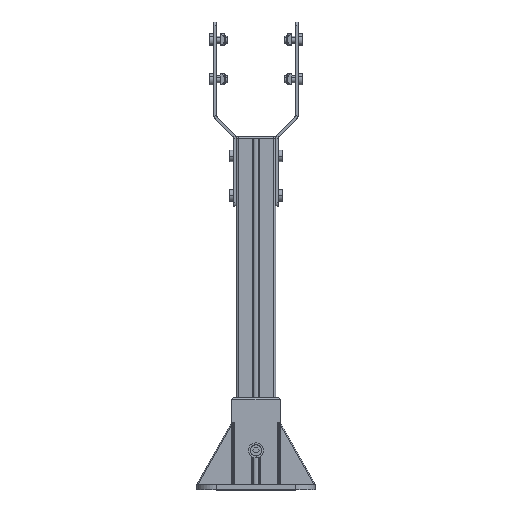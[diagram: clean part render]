
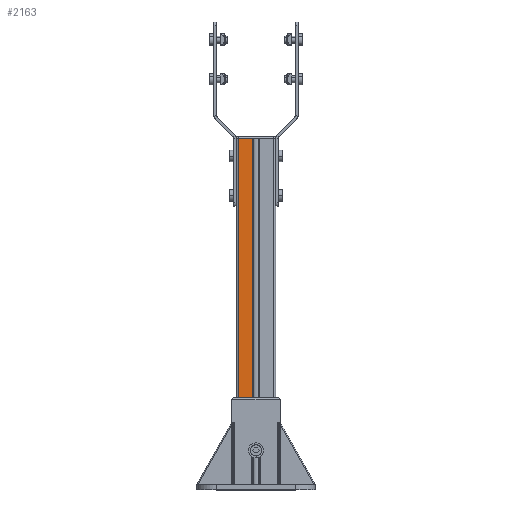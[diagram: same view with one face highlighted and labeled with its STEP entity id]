
A CAD part, top view. The second image highlights one B-rep face of the part: STEP entity #2163.
In plain terms, the highlighted planar face has unit normal (0, 0, 1).
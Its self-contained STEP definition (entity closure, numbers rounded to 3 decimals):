
#153 = EDGE_LOOP ( 'NONE', ( #6823, #3425, #8064, #6465 ) ) ;
#171 = VERTEX_POINT ( 'NONE', #10446 ) ;
#488 = LINE ( 'NONE', #8338, #710 ) ;
#710 = VECTOR ( 'NONE', #3123, 1000. ) ;
#715 = DIRECTION ( 'NONE',  ( 1., 0., 0. ) ) ;
#1403 = VERTEX_POINT ( 'NONE', #16484 ) ;
#2163 = ADVANCED_FACE ( 'NONE', ( #9045 ), #5379, .F. ) ;
#2606 = CARTESIAN_POINT ( 'NONE',  ( -400., 4.15, 22.5 ) ) ;
#2920 = CARTESIAN_POINT ( 'NONE',  ( 0., 20., 22.5 ) ) ;
#3123 = DIRECTION ( 'NONE',  ( 0., 1., 0. ) ) ;
#3425 = ORIENTED_EDGE ( 'NONE', *, *, #3549, .F. ) ;
#3549 = EDGE_CURVE ( 'NONE', #1403, #4043, #9013, .T. ) ;
#4043 = VERTEX_POINT ( 'NONE', #2920 ) ;
#4126 = VECTOR ( 'NONE', #17094, 1000. ) ;
#4282 = AXIS2_PLACEMENT_3D ( 'NONE', #11042, #11344, #7264 ) ;
#4383 = EDGE_CURVE ( 'NONE', #12776, #171, #13140, .T. ) ;
#4829 = VECTOR ( 'NONE', #715, 1000. ) ;
#5379 = PLANE ( 'NONE',  #4282 ) ;
#5912 = CARTESIAN_POINT ( 'NONE',  ( -400., 4.15, 22.5 ) ) ;
#6070 = VECTOR ( 'NONE', #16387, 1000. ) ;
#6465 = ORIENTED_EDGE ( 'NONE', *, *, #4383, .T. ) ;
#6823 = ORIENTED_EDGE ( 'NONE', *, *, #16895, .T. ) ;
#7264 = DIRECTION ( 'NONE',  ( 0., 1., 0. ) ) ;
#7677 = CARTESIAN_POINT ( 'NONE',  ( -400., 20., 22.5 ) ) ;
#7849 = LINE ( 'NONE', #12224, #6070 ) ;
#8064 = ORIENTED_EDGE ( 'NONE', *, *, #13453, .F. ) ;
#8338 = CARTESIAN_POINT ( 'NONE',  ( -400., 20., 22.5 ) ) ;
#9013 = LINE ( 'NONE', #7677, #4829 ) ;
#9045 = FACE_OUTER_BOUND ( 'NONE', #153, .T. ) ;
#10446 = CARTESIAN_POINT ( 'NONE',  ( 0., 4.15, 22.5 ) ) ;
#11042 = CARTESIAN_POINT ( 'NONE',  ( -400., 20., 22.5 ) ) ;
#11344 = DIRECTION ( 'NONE',  ( 0., 0., -1. ) ) ;
#12224 = CARTESIAN_POINT ( 'NONE',  ( 0., 20., 22.5 ) ) ;
#12776 = VERTEX_POINT ( 'NONE', #2606 ) ;
#13140 = LINE ( 'NONE', #5912, #4126 ) ;
#13453 = EDGE_CURVE ( 'NONE', #12776, #1403, #488, .T. ) ;
#16387 = DIRECTION ( 'NONE',  ( 0., 1., 0. ) ) ;
#16484 = CARTESIAN_POINT ( 'NONE',  ( -400., 20., 22.5 ) ) ;
#16895 = EDGE_CURVE ( 'NONE', #171, #4043, #7849, .T. ) ;
#17094 = DIRECTION ( 'NONE',  ( 1., 0., 0. ) ) ;
